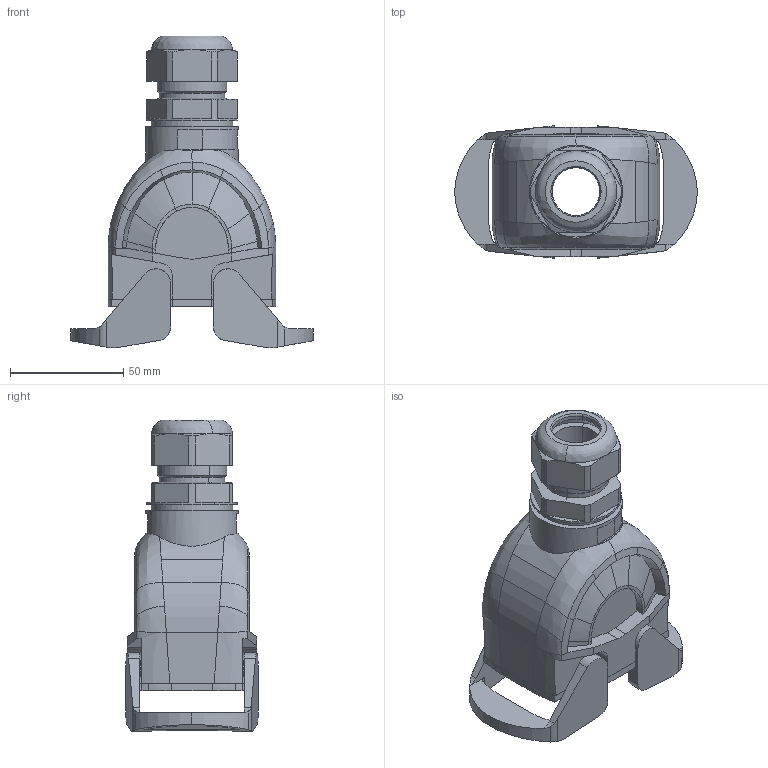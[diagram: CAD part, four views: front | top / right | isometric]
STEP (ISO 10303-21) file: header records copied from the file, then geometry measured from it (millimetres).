
FILE_DESCRIPTION(/* description */ (''),/* implementation_level */ '2;1');
FILE_NAME(/* name */ '100556207ugm000_e.stp',/* time_stamp */ '2022-03-11T19:15:45+01:00',/* author */ (''),/* organization */ (''),/* preprocessor_version */ 'ST-DEVELOPER v16.7',/* originating_system */ 'SIEMENS PLM Software NX 1911',/* authorisation */ '');
FILE_SCHEMA (('AUTOMOTIVE_DESIGN { 1 0 10303 214 3 1 1 1 }'));
Length unit declared in the file: millimetre
Products named in the file (1): 100556207ugm000_e
Bounding box: 107 x 58.36 x 137.55 mm (x, y, z)
Volume: 138397.7 mm3; surface area: 60366.3 mm2
Topology: 3 solids, 5 shells, 740 faces, 2135 edges, 1428 vertices
Faces by surface type: plane 451, cylinder 127, bspline 108, extrusion 23, cone 21, revolution 10
Full cylindrical faces by diameter (mm): 1.12 x1, 1.2 x2, 1.57 x1, 6.8 x4, 28 x1, 30.5 x1, 36 x1, 41 x1
Entity records: 32762 total; most frequent: CARTESIAN_POINT 9216, ORIENTED_EDGE 4212, DIRECTION 3178, EDGE_CURVE 2106, VERTEX_POINT 1423, VECTOR 1352, LINE 1329, AXIS2_PLACEMENT_3D 908
